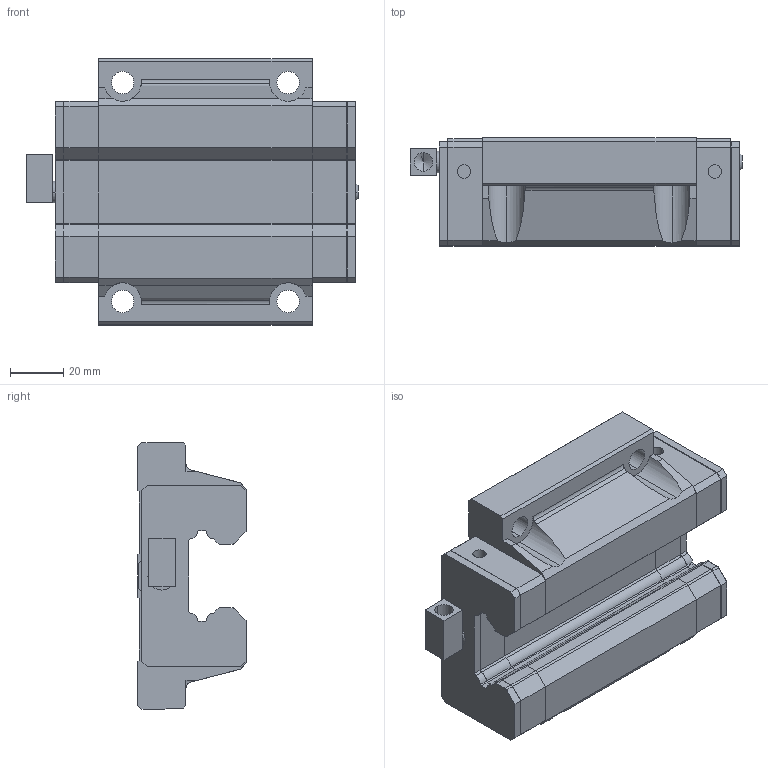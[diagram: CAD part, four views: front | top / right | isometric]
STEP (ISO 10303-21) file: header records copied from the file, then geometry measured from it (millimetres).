
FILE_DESCRIPTION (( 'STEP AP203' ), '1' );
FILE_NAME ('SGW35CA.STEP', '2025-06-27T06:16:40', ( 'Owner' ), ( 'Organization' ), 'SwSTEP 2.0', 'SolidWorks 2020', '' );
FILE_SCHEMA (( 'CONFIG_CONTROL_DESIGN' ));
Length unit declared in the file: millimetre
Products named in the file (1): SGW35CA
Bounding box: 124.4 x 40.5 x 100 mm (x, y, z)
Volume: 287618.9 mm3; surface area: 59927.8 mm2
Topology: 7 solids, 7 shells, 403 faces, 1072 edges, 694 vertices
Faces by surface type: plane 275, cylinder 96, cone 30, torus 2
Entity records: 12580 total; most frequent: CARTESIAN_POINT 2406, ORIENTED_EDGE 2140, DIRECTION 2043, EDGE_CURVE 1070, VECTOR 809, LINE 809, VERTEX_POINT 694, AXIS2_PLACEMENT_3D 617
